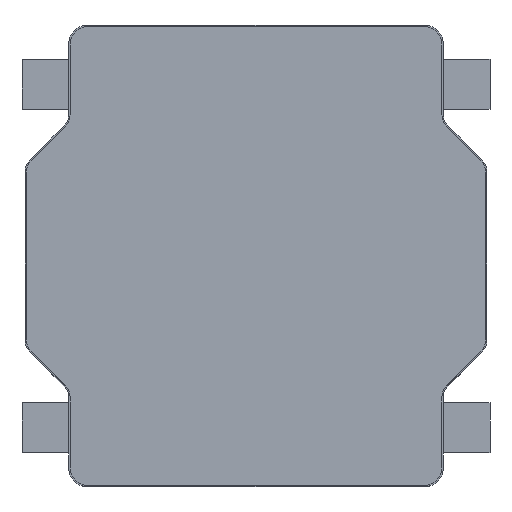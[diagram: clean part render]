
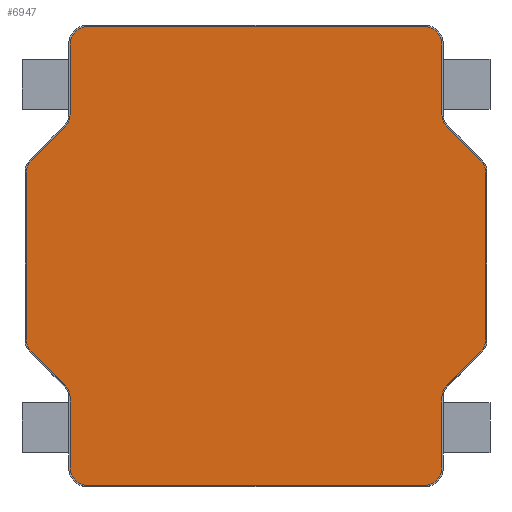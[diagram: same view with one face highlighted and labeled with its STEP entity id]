
A CAD part, top view. The second image highlights one B-rep face of the part: STEP entity #6947.
In plain terms, the highlighted planar face has unit normal (0, 0, 1).
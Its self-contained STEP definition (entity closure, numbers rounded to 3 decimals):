
#6257=DIRECTION('',(-0.707,0.707,0.));
#6258=VECTOR('',#6257,0.387);
#6259=CARTESIAN_POINT('',(1.802,0.764,0.05));
#6260=LINE('',#6259,#6258);
#6272=CARTESIAN_POINT('',(1.62,1.13,0.05));
#6273=DIRECTION('',(0.,0.,-1.));
#6274=DIRECTION('',(-0.707,-0.707,0.));
#6275=AXIS2_PLACEMENT_3D('',#6272,#6273,#6274);
#6301=DIRECTION('',(0.,-1.,0.));
#6302=VECTOR('',#6301,0.56);
#6303=CARTESIAN_POINT('',(1.49,1.69,0.05));
#6304=LINE('',#6303,#6302);
#6308=CARTESIAN_POINT('',(1.71,0.672,0.05));
#6309=DIRECTION('',(0.,0.,1.));
#6310=DIRECTION('',(1.,0.,0.));
#6311=AXIS2_PLACEMENT_3D('',#6308,#6309,#6310);
#6316=CARTESIAN_POINT('',(1.71,-0.672,0.05));
#6317=DIRECTION('',(0.,0.,1.));
#6318=DIRECTION('',(0.707,-0.707,0.));
#6319=AXIS2_PLACEMENT_3D('',#6316,#6317,#6318);
#6324=CARTESIAN_POINT('',(1.34,-1.69,0.05));
#6325=DIRECTION('',(0.,0.,1.));
#6326=DIRECTION('',(0.,-1.,0.));
#6327=AXIS2_PLACEMENT_3D('',#6324,#6325,#6326);
#6332=CARTESIAN_POINT('',(-1.34,-1.69,0.05));
#6333=DIRECTION('',(0.,0.,1.));
#6334=DIRECTION('',(-1.,0.,0.));
#6335=AXIS2_PLACEMENT_3D('',#6332,#6333,#6334);
#6340=CARTESIAN_POINT('',(-1.71,-0.672,0.05));
#6341=DIRECTION('',(0.,0.,1.));
#6342=DIRECTION('',(-1.,0.,0.));
#6343=AXIS2_PLACEMENT_3D('',#6340,#6341,#6342);
#6348=CARTESIAN_POINT('',(-1.71,0.672,0.05));
#6349=DIRECTION('',(0.,0.,1.));
#6350=DIRECTION('',(-0.707,0.707,0.));
#6351=AXIS2_PLACEMENT_3D('',#6348,#6349,#6350);
#6356=CARTESIAN_POINT('',(-1.34,1.69,0.05));
#6357=DIRECTION('',(0.,0.,1.));
#6358=DIRECTION('',(0.,1.,0.));
#6359=AXIS2_PLACEMENT_3D('',#6356,#6357,#6358);
#6364=CARTESIAN_POINT('',(1.34,1.69,0.05));
#6365=DIRECTION('',(0.,0.,1.));
#6366=DIRECTION('',(1.,0.,0.));
#6367=AXIS2_PLACEMENT_3D('',#6364,#6365,#6366);
#6379=DIRECTION('',(0.,1.,0.));
#6380=VECTOR('',#6379,1.344);
#6381=CARTESIAN_POINT('',(1.84,-0.672,0.05));
#6382=LINE('',#6381,#6380);
#6407=DIRECTION('',(0.707,0.707,0.));
#6408=VECTOR('',#6407,0.387);
#6409=CARTESIAN_POINT('',(1.528,-1.038,0.05));
#6410=LINE('',#6409,#6408);
#6436=CARTESIAN_POINT('',(1.62,-1.13,0.05));
#6437=DIRECTION('',(0.,0.,-1.));
#6438=DIRECTION('',(-1.,0.,0.));
#6439=AXIS2_PLACEMENT_3D('',#6436,#6437,#6438);
#6465=DIRECTION('',(0.,1.,0.));
#6466=VECTOR('',#6465,0.56);
#6467=CARTESIAN_POINT('',(1.49,-1.69,0.05));
#6468=LINE('',#6467,#6466);
#6479=DIRECTION('',(1.,0.,0.));
#6480=VECTOR('',#6479,2.68);
#6481=CARTESIAN_POINT('',(-1.34,-1.84,0.05));
#6482=LINE('',#6481,#6480);
#6507=DIRECTION('',(0.,-1.,0.));
#6508=VECTOR('',#6507,0.56);
#6509=CARTESIAN_POINT('',(-1.49,-1.13,0.05));
#6510=LINE('',#6509,#6508);
#6536=CARTESIAN_POINT('',(-1.62,-1.13,0.05));
#6537=DIRECTION('',(0.,0.,-1.));
#6538=DIRECTION('',(0.707,0.707,0.));
#6539=AXIS2_PLACEMENT_3D('',#6536,#6537,#6538);
#6565=DIRECTION('',(0.707,-0.707,0.));
#6566=VECTOR('',#6565,0.387);
#6567=CARTESIAN_POINT('',(-1.802,-0.764,0.05));
#6568=LINE('',#6567,#6566);
#6579=DIRECTION('',(0.,-1.,0.));
#6580=VECTOR('',#6579,1.344);
#6581=CARTESIAN_POINT('',(-1.84,0.672,0.05));
#6582=LINE('',#6581,#6580);
#6607=DIRECTION('',(-0.707,-0.707,0.));
#6608=VECTOR('',#6607,0.387);
#6609=CARTESIAN_POINT('',(-1.528,1.038,0.05));
#6610=LINE('',#6609,#6608);
#6636=CARTESIAN_POINT('',(-1.62,1.13,0.05));
#6637=DIRECTION('',(0.,0.,-1.));
#6638=DIRECTION('',(1.,0.,0.));
#6639=AXIS2_PLACEMENT_3D('',#6636,#6637,#6638);
#6665=DIRECTION('',(0.,-1.,0.));
#6666=VECTOR('',#6665,0.56);
#6667=CARTESIAN_POINT('',(-1.49,1.69,0.05));
#6668=LINE('',#6667,#6666);
#6679=DIRECTION('',(-1.,0.,0.));
#6680=VECTOR('',#6679,2.68);
#6681=CARTESIAN_POINT('',(1.34,1.84,0.05));
#6682=LINE('',#6681,#6680);
#6700=CARTESIAN_POINT('',(-1.49,-1.69,0.05));
#6701=CARTESIAN_POINT('',(-1.34,-1.84,0.05));
#6702=VERTEX_POINT('',#6700);
#6703=VERTEX_POINT('',#6701);
#6708=CARTESIAN_POINT('',(1.34,-1.84,0.05));
#6709=CARTESIAN_POINT('',(1.49,-1.69,0.05));
#6710=VERTEX_POINT('',#6708);
#6711=VERTEX_POINT('',#6709);
#6716=CARTESIAN_POINT('',(1.802,-0.764,0.05));
#6717=CARTESIAN_POINT('',(1.84,-0.672,0.05));
#6718=VERTEX_POINT('',#6716);
#6719=VERTEX_POINT('',#6717);
#6724=CARTESIAN_POINT('',(1.84,0.672,0.05));
#6725=CARTESIAN_POINT('',(1.802,0.764,0.05));
#6726=VERTEX_POINT('',#6724);
#6727=VERTEX_POINT('',#6725);
#6732=CARTESIAN_POINT('',(1.49,1.69,0.05));
#6733=CARTESIAN_POINT('',(1.34,1.84,0.05));
#6734=VERTEX_POINT('',#6732);
#6735=VERTEX_POINT('',#6733);
#6740=CARTESIAN_POINT('',(-1.34,1.84,0.05));
#6741=CARTESIAN_POINT('',(-1.49,1.69,0.05));
#6742=VERTEX_POINT('',#6740);
#6743=VERTEX_POINT('',#6741);
#6748=CARTESIAN_POINT('',(-1.802,0.764,0.05));
#6749=CARTESIAN_POINT('',(-1.84,0.672,0.05));
#6750=VERTEX_POINT('',#6748);
#6751=VERTEX_POINT('',#6749);
#6756=CARTESIAN_POINT('',(-1.84,-0.672,0.05));
#6757=CARTESIAN_POINT('',(-1.802,-0.764,0.05));
#6758=VERTEX_POINT('',#6756);
#6759=VERTEX_POINT('',#6757);
#6765=CARTESIAN_POINT('',(1.528,-1.038,0.05));
#6767=VERTEX_POINT('',#6765);
#6769=CARTESIAN_POINT('',(1.49,-1.13,0.05));
#6771=VERTEX_POINT('',#6769);
#6773=CARTESIAN_POINT('',(1.49,1.13,0.05));
#6775=VERTEX_POINT('',#6773);
#6777=CARTESIAN_POINT('',(1.528,1.038,0.05));
#6779=VERTEX_POINT('',#6777);
#6781=CARTESIAN_POINT('',(-1.528,1.038,0.05));
#6783=VERTEX_POINT('',#6781);
#6785=CARTESIAN_POINT('',(-1.49,1.13,0.05));
#6787=VERTEX_POINT('',#6785);
#6789=CARTESIAN_POINT('',(-1.49,-1.13,0.05));
#6791=VERTEX_POINT('',#6789);
#6793=CARTESIAN_POINT('',(-1.528,-1.038,0.05));
#6795=VERTEX_POINT('',#6793);
#6895=CARTESIAN_POINT('',(0.,0.,0.05));
#6896=DIRECTION('',(0.,0.,1.));
#6897=DIRECTION('',(1.,0.,0.));
#6898=AXIS2_PLACEMENT_3D('',#6895,#6896,#6897);
#6899=PLANE('',#6898);
#6900=ORIENTED_EDGE('',*,*,#6887,.T.);
#6901=ORIENTED_EDGE('',*,*,#6876,.F.);
#6902=ORIENTED_EDGE('',*,*,#6862,.F.);
#6904=ORIENTED_EDGE('',*,*,#6903,.F.);
#6906=ORIENTED_EDGE('',*,*,#6905,.F.);
#6908=ORIENTED_EDGE('',*,*,#6907,.F.);
#6910=ORIENTED_EDGE('',*,*,#6909,.F.);
#6912=ORIENTED_EDGE('',*,*,#6911,.F.);
#6914=ORIENTED_EDGE('',*,*,#6913,.F.);
#6916=ORIENTED_EDGE('',*,*,#6915,.F.);
#6918=ORIENTED_EDGE('',*,*,#6917,.F.);
#6920=ORIENTED_EDGE('',*,*,#6919,.F.);
#6922=ORIENTED_EDGE('',*,*,#6921,.F.);
#6924=ORIENTED_EDGE('',*,*,#6923,.F.);
#6926=ORIENTED_EDGE('',*,*,#6925,.F.);
#6928=ORIENTED_EDGE('',*,*,#6927,.F.);
#6930=ORIENTED_EDGE('',*,*,#6929,.F.);
#6932=ORIENTED_EDGE('',*,*,#6931,.F.);
#6934=ORIENTED_EDGE('',*,*,#6933,.F.);
#6936=ORIENTED_EDGE('',*,*,#6935,.F.);
#6938=ORIENTED_EDGE('',*,*,#6937,.F.);
#6940=ORIENTED_EDGE('',*,*,#6939,.F.);
#6942=ORIENTED_EDGE('',*,*,#6941,.F.);
#6944=ORIENTED_EDGE('',*,*,#6943,.F.);
#6945=EDGE_LOOP('',(#6900,#6901,#6902,#6904,#6906,#6908,#6910,#6912,#6914,#6916,
#6918,#6920,#6922,#6924,#6926,#6928,#6930,#6932,#6934,#6936,#6938,#6940,#6942,
#6944));
#6946=FACE_OUTER_BOUND('',#6945,.F.);
#6276=CIRCLE('',#6275,0.13);
#6312=CIRCLE('',#6311,0.13);
#6320=CIRCLE('',#6319,0.13);
#6328=CIRCLE('',#6327,0.15);
#6336=CIRCLE('',#6335,0.15);
#6344=CIRCLE('',#6343,0.13);
#6352=CIRCLE('',#6351,0.13);
#6360=CIRCLE('',#6359,0.15);
#6368=CIRCLE('',#6367,0.15);
#6440=CIRCLE('',#6439,0.13);
#6540=CIRCLE('',#6539,0.13);
#6640=CIRCLE('',#6639,0.13);
#6862=EDGE_CURVE('',#6727,#6779,#6260,.T.);
#6876=EDGE_CURVE('',#6779,#6775,#6276,.T.);
#6887=EDGE_CURVE('',#6734,#6775,#6304,.T.);
#6903=EDGE_CURVE('',#6726,#6727,#6312,.T.);
#6905=EDGE_CURVE('',#6719,#6726,#6382,.T.);
#6907=EDGE_CURVE('',#6718,#6719,#6320,.T.);
#6909=EDGE_CURVE('',#6767,#6718,#6410,.T.);
#6911=EDGE_CURVE('',#6771,#6767,#6440,.T.);
#6913=EDGE_CURVE('',#6711,#6771,#6468,.T.);
#6915=EDGE_CURVE('',#6710,#6711,#6328,.T.);
#6917=EDGE_CURVE('',#6703,#6710,#6482,.T.);
#6919=EDGE_CURVE('',#6702,#6703,#6336,.T.);
#6921=EDGE_CURVE('',#6791,#6702,#6510,.T.);
#6923=EDGE_CURVE('',#6795,#6791,#6540,.T.);
#6925=EDGE_CURVE('',#6759,#6795,#6568,.T.);
#6927=EDGE_CURVE('',#6758,#6759,#6344,.T.);
#6929=EDGE_CURVE('',#6751,#6758,#6582,.T.);
#6931=EDGE_CURVE('',#6750,#6751,#6352,.T.);
#6933=EDGE_CURVE('',#6783,#6750,#6610,.T.);
#6935=EDGE_CURVE('',#6787,#6783,#6640,.T.);
#6937=EDGE_CURVE('',#6743,#6787,#6668,.T.);
#6939=EDGE_CURVE('',#6742,#6743,#6360,.T.);
#6941=EDGE_CURVE('',#6735,#6742,#6682,.T.);
#6943=EDGE_CURVE('',#6734,#6735,#6368,.T.);
#6947=ADVANCED_FACE('',(#6946),#6899,.T.);
